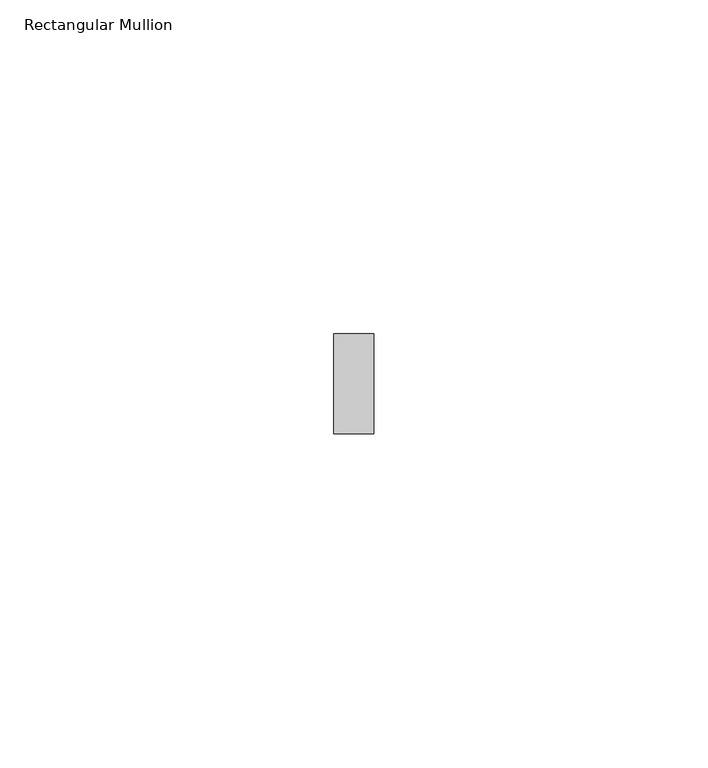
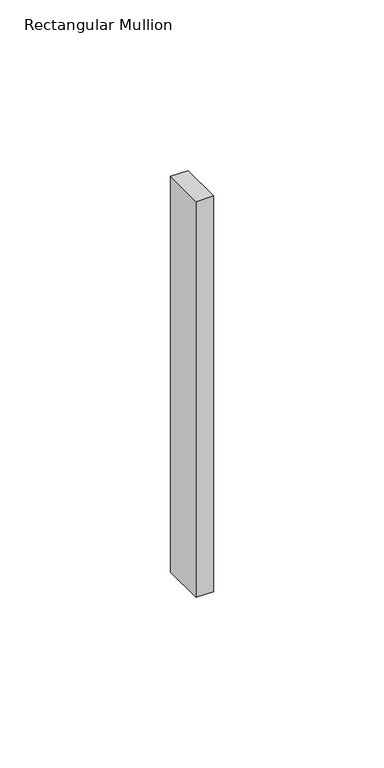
"""IFC4 building model written with IfcOpenShell, lengths in millimetres: member geometry, Rectangular Mullion : ARQ_HERR_15X6mm."""

from ifc_helpers import new_model, si_unit, frame, origin, place, context, project, spatial, polyline, outline, extrude, source, transform, mapped, element, save


def rectangular_mullion_ea82ce8c(model_context):
    return source(origin(), model_context, "Body", "SweptSolid", [
        extrude(outline(polyline([(3.0, 7.5), (3.0, -7.5), (-3.0, -7.5), (-3.0, 7.5), (3.0, 7.5)])), frame((0.0, 0.0, -141.6666667), z_axis=(0.0, 0.0, 1.0), x_axis=(1.0, 0.0, 0.0)), (0.0, 0.0, 1.0), 141.6666667),
    ])


if __name__ == "__main__":
    model = new_model("IFC4")
    model_context = context("Model", 3, world=origin())
    ifc_project = project(units=[si_unit("LENGTHUNIT", "METRE", prefix="MILLI")], contexts=[model_context])
    site = spatial("IfcSite", under=ifc_project)
    building = spatial("IfcBuilding", under=site)
    placement = place(None, origin())
    rectangular_mullion_shape = rectangular_mullion_ea82ce8c(model_context)
    element("IfcMember", 1, ObjectType="Rectangular Mullion : ARQ_HERR_15X6mm", at=placement, inside=building, context=model_context, shape_type="MappedRepresentation", body=[
        mapped(rectangular_mullion_shape, transform((0.0, 0.0, 0.0), x_axis=(1.0, 0.0, 0.0), y_axis=(0.0, 1.0, 0.0), z_axis=(0.0, 0.0, 1.0))),
    ])
    save(model, "model.ifc")
